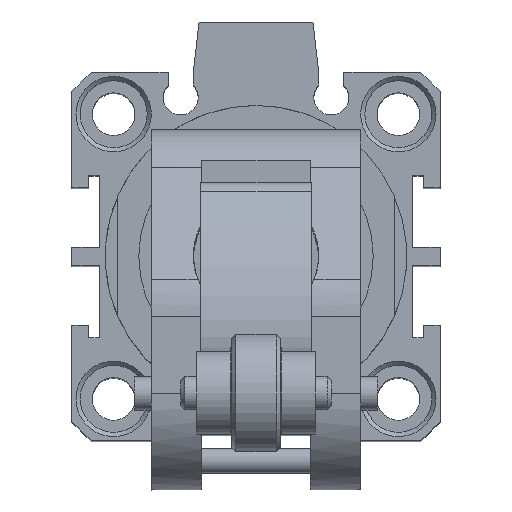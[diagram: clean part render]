
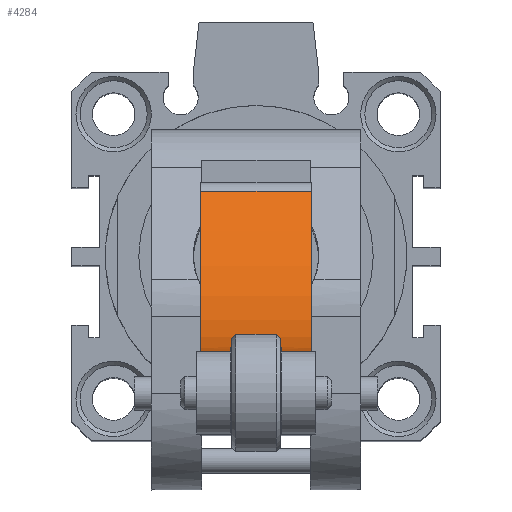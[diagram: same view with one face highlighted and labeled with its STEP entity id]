
A CAD part, top view. The second image highlights one B-rep face of the part: STEP entity #4284.
In plain terms, the highlighted cylindrical face has radius 38 mm (diameter 76 mm), a partial arc.
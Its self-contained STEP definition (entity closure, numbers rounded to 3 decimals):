
#3612=CARTESIAN_POINT('',(-0.726,-11.62,173.756));
#3613=VERTEX_POINT('',#3612);
#3622=CARTESIAN_POINT('',(-0.726,-11.145,167.762));
#3623=VERTEX_POINT('',#3622);
#3624=CARTESIAN_POINT('',(-0.726,26.38,173.756));
#3625=DIRECTION('',(-1.0,0.0,0.0));
#3626=DIRECTION('',(0.0,1.0,0.0));
#3627=AXIS2_PLACEMENT_3D('',#3624,#3625,#3626);
#3628=CIRCLE('',#3627,38.);
#3629=EDGE_CURVE('',#3623,#3613,#3628,.T.);
#3755=CARTESIAN_POINT('',(-6.726,-11.145,167.762));
#3756=VERTEX_POINT('',#3755);
#3764=CARTESIAN_POINT('',(-6.726,-11.62,173.756));
#3765=VERTEX_POINT('',#3764);
#3766=CARTESIAN_POINT('',(-6.726,26.38,173.756));
#3767=DIRECTION('',(1.0,0.0,0.0));
#3768=DIRECTION('',(0.0,1.0,0.0));
#3769=AXIS2_PLACEMENT_3D('',#3766,#3767,#3768);
#3770=CIRCLE('',#3769,38.);
#3771=EDGE_CURVE('',#3765,#3756,#3770,.T.);
#4036=CARTESIAN_POINT('',(2.874,7.57,140.738));
#4037=VERTEX_POINT('',#4036);
#4045=CARTESIAN_POINT('',(2.874,-11.62,173.756));
#4046=VERTEX_POINT('',#4045);
#4047=CARTESIAN_POINT('',(2.874,26.38,173.756));
#4048=DIRECTION('',(1.0,0.0,0.0));
#4049=DIRECTION('',(0.0,1.0,0.0));
#4050=AXIS2_PLACEMENT_3D('',#4047,#4048,#4049);
#4051=CIRCLE('',#4050,38.);
#4052=EDGE_CURVE('',#4046,#4037,#4051,.T.);
#4079=CARTESIAN_POINT('',(-10.326,-11.62,173.756));
#4080=VERTEX_POINT('',#4079);
#4087=CARTESIAN_POINT('',(-10.326,7.57,140.738));
#4088=VERTEX_POINT('',#4087);
#4089=CARTESIAN_POINT('',(-10.326,26.38,173.756));
#4090=DIRECTION('',(-1.0,0.0,0.0));
#4091=DIRECTION('',(0.0,1.0,0.0));
#4092=AXIS2_PLACEMENT_3D('',#4089,#4090,#4091);
#4093=CIRCLE('',#4092,38.);
#4094=EDGE_CURVE('',#4088,#4080,#4093,.T.);
#4245=CARTESIAN_POINT('',(-6.726,-11.145,167.762));
#4246=DIRECTION('',(1.0,0.0,0.0));
#4247=VECTOR('',#4246,6.);
#4248=LINE('',#4245,#4247);
#4249=EDGE_CURVE('',#3756,#3623,#4248,.T.);
#4254=CARTESIAN_POINT('',(-3.726,26.38,173.756));
#4255=DIRECTION('',(1.0,0.,0.0));
#4256=DIRECTION('',(0.0,1.0,0.0));
#4257=AXIS2_PLACEMENT_3D('',#4254,#4255,#4256);
#4258=CYLINDRICAL_SURFACE('',#4257,38.);
#4259=ORIENTED_EDGE('',*,*,#3771,.T.);
#4260=ORIENTED_EDGE('',*,*,#4249,.T.);
#4261=ORIENTED_EDGE('',*,*,#3629,.T.);
#4262=CARTESIAN_POINT('',(-0.726,-11.62,173.756));
#4263=DIRECTION('',(1.0,0.0,0.0));
#4264=VECTOR('',#4263,3.6);
#4265=LINE('',#4262,#4264);
#4266=EDGE_CURVE('',#3613,#4046,#4265,.T.);
#4267=ORIENTED_EDGE('',*,*,#4266,.T.);
#4268=ORIENTED_EDGE('',*,*,#4052,.T.);
#4269=CARTESIAN_POINT('',(-10.326,7.57,140.738));
#4270=DIRECTION('',(1.0,0.0,0.0));
#4271=VECTOR('',#4270,13.2);
#4272=LINE('',#4269,#4271);
#4273=EDGE_CURVE('',#4088,#4037,#4272,.T.);
#4274=ORIENTED_EDGE('',*,*,#4273,.F.);
#4275=ORIENTED_EDGE('',*,*,#4094,.T.);
#4276=CARTESIAN_POINT('',(-10.326,-11.62,173.756));
#4277=DIRECTION('',(1.0,0.0,0.0));
#4278=VECTOR('',#4277,3.6);
#4279=LINE('',#4276,#4278);
#4280=EDGE_CURVE('',#4080,#3765,#4279,.T.);
#4281=ORIENTED_EDGE('',*,*,#4280,.T.);
#4282=EDGE_LOOP('',(#4259,#4260,#4261,#4267,#4268,#4274,#4275,#4281));
#4283=FACE_OUTER_BOUND('',#4282,.T.);
#4284=ADVANCED_FACE('',(#4283),#4258,.F.);
